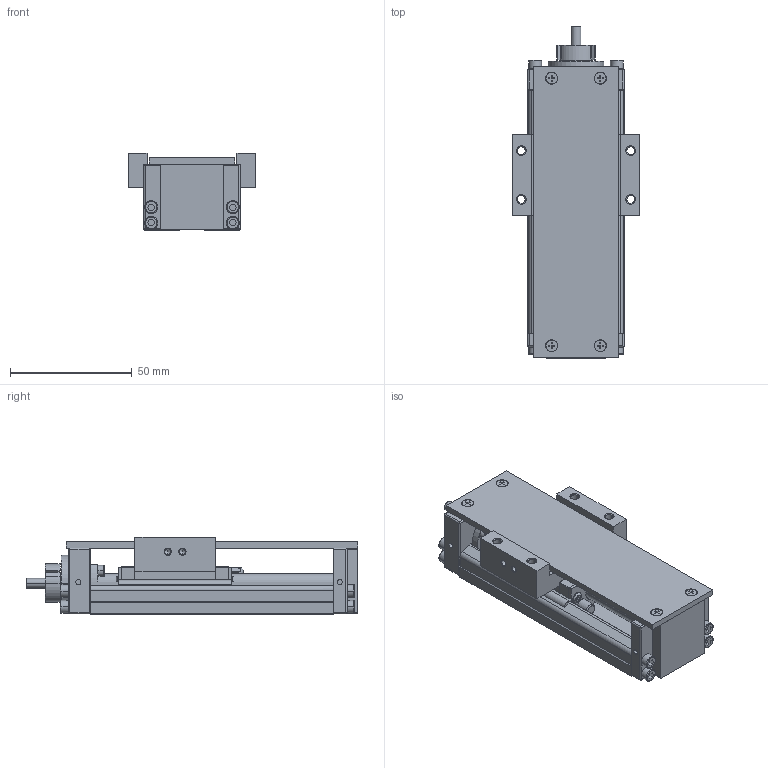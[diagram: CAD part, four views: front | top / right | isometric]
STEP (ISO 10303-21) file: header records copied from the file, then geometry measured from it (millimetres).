
FILE_DESCRIPTION(('no description'),'unknown implementation level');
FILE_NAME('KK4001P100A1H0C00_FILE_6.stp',' ',('HIWIN GmbH'),('CADClick - KiM GmbH - www.kimweb.de'),'unknown preprocess','ACIS','unknown authorization');
FILE_SCHEMA(('automotive_design'));
Length unit declared in the file: millimetre
Products named in the file (2): KK40_FILE; KK4001P100A1H0C00_FILE
Bounding box: 52 x 136.5 x 32 mm (x, y, z)
Volume: 95539.7 mm3; surface area: 45099.3 mm2
Topology: 2 solids, 18 shells, 919 faces, 2383 edges, 1520 vertices
Faces by surface type: plane 542, cylinder 277, cone 56, torus 42, sphere 2
Entity records: 56010 total; most frequent: CARTESIAN_POINT 6172, DIRECTION 4860, STYLED_ITEM 4816, PRESENTATION_STYLE_ASSIGNMENT 4816, COLOUR_RGB 4816, ORIENTED_EDGE 4750, EDGE_CURVE 2375, CURVE_STYLE 2375
